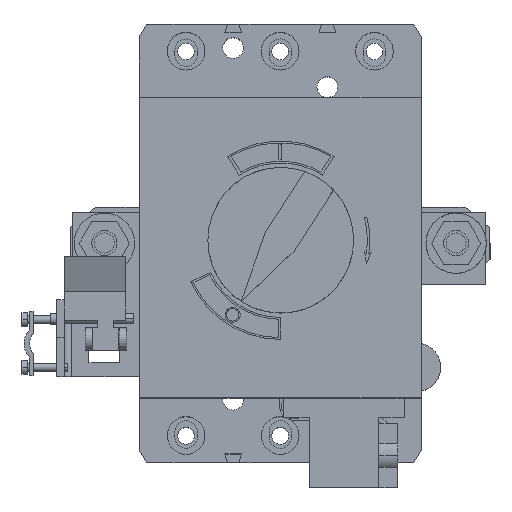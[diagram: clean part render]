
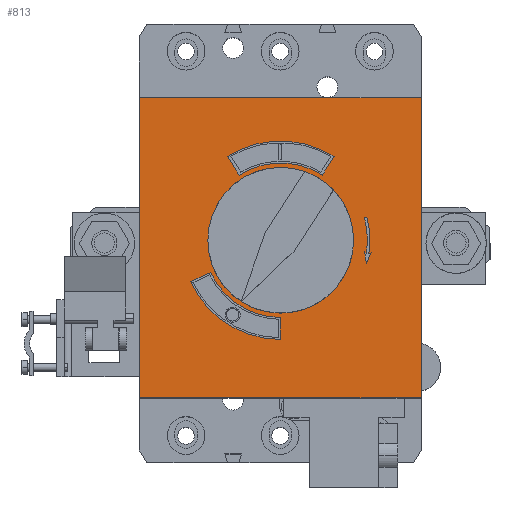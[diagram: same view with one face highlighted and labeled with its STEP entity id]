
A CAD part, top view. The second image highlights one B-rep face of the part: STEP entity #813.
In plain terms, the highlighted planar face has unit normal (0, 0, 1).
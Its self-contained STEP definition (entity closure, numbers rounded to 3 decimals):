
#37 = CARTESIAN_POINT ( 'NONE',  ( 16.717, 26.977, 208.6 ) ) ;
#357 = CARTESIAN_POINT ( 'NONE',  ( 56.115, -61.753, 208.6 ) ) ;
#364 = EDGE_LOOP ( 'NONE', ( #4273, #2432, #441, #1223 ) ) ;
#441 = ORIENTED_EDGE ( 'NONE', *, *, #14408, .F. ) ;
#461 = AXIS2_PLACEMENT_3D ( 'NONE', #5676, #5631, #13730 ) ;
#475 = DIRECTION ( 'NONE',  ( 0., 0., 1. ) ) ;
#523 = VECTOR ( 'NONE', #7405, 1000. ) ;
#596 = LINE ( 'NONE', #7866, #12225 ) ;
#613 = CIRCLE ( 'NONE', #7390, 39.5 ) ;
#648 = LINE ( 'NONE', #14731, #4131 ) ;
#664 = LINE ( 'NONE', #2776, #13053 ) ;
#813 = ADVANCED_FACE ( 'NONE', ( #8595, #4230, #14216, #14394 ), #6535, .F. ) ;
#816 = VERTEX_POINT ( 'NONE', #14621 ) ;
#941 = CARTESIAN_POINT ( 'NONE',  ( 0.195, 1.042, 208.6 ) ) ;
#976 = VERTEX_POINT ( 'NONE', #37 ) ;
#1223 = ORIENTED_EDGE ( 'NONE', *, *, #3751, .F. ) ;
#1296 = CARTESIAN_POINT ( 'NONE',  ( 0.195, 1.042, 208.6 ) ) ;
#1320 = DIRECTION ( 'NONE',  ( 0., -1., 0. ) ) ;
#1738 = VERTEX_POINT ( 'NONE', #2502 ) ;
#1744 = CIRCLE ( 'NONE', #9808, 29. ) ;
#1777 = CARTESIAN_POINT ( 'NONE',  ( -27.739, -11.812, 208.6 ) ) ;
#1913 = VECTOR ( 'NONE', #1320, 1000. ) ;
#1964 = AXIS2_PLACEMENT_3D ( 'NONE', #941, #8921, #6851 ) ;
#2423 = LINE ( 'NONE', #12841, #10778 ) ;
#2432 = ORIENTED_EDGE ( 'NONE', *, *, #6564, .F. ) ;
#2474 = ORIENTED_EDGE ( 'NONE', *, *, #10671, .T. ) ;
#2502 = CARTESIAN_POINT ( 'NONE',  ( -56.115, -61.753, 208.6 ) ) ;
#2542 = EDGE_CURVE ( 'NONE', #7945, #4512, #6720, .T. ) ;
#2638 = EDGE_LOOP ( 'NONE', ( #11622, #2474, #7242, #8294 ) ) ;
#2776 = CARTESIAN_POINT ( 'NONE',  ( 0., -29.707, 208.6 ) ) ;
#2919 = CARTESIAN_POINT ( 'NONE',  ( 0., -38.457, 208.6 ) ) ;
#3313 = DIRECTION ( 'NONE',  ( 1., 0., 0. ) ) ;
#3363 = CARTESIAN_POINT ( 'NONE',  ( 0., -29.707, 208.6 ) ) ;
#3446 = CARTESIAN_POINT ( 'NONE',  ( 21.418, 34.356, 208.6 ) ) ;
#3517 = EDGE_CURVE ( 'NONE', #5341, #12963, #14667, .T. ) ;
#3548 = CARTESIAN_POINT ( 'NONE',  ( 56.115, 57.742, 208.6 ) ) ;
#3578 = ORIENTED_EDGE ( 'NONE', *, *, #10944, .F. ) ;
#3751 = EDGE_CURVE ( 'NONE', #12963, #816, #4907, .T. ) ;
#3764 = CARTESIAN_POINT ( 'NONE',  ( -56.115, 57.742, 208.6 ) ) ;
#3782 = CARTESIAN_POINT ( 'NONE',  ( 0.195, 1.042, 208.6 ) ) ;
#3874 = CARTESIAN_POINT ( 'NONE',  ( 56.115, 57.742, 208.6 ) ) ;
#4095 = LINE ( 'NONE', #3764, #1913 ) ;
#4131 = VECTOR ( 'NONE', #13571, 1000. ) ;
#4230 = FACE_BOUND ( 'NONE', #13514, .T. ) ;
#4273 = ORIENTED_EDGE ( 'NONE', *, *, #3517, .F. ) ;
#4512 = VERTEX_POINT ( 'NONE', #3548 ) ;
#4600 = CARTESIAN_POINT ( 'NONE',  ( -16.327, 26.977, 208.6 ) ) ;
#4614 = CIRCLE ( 'NONE', #1964, 30.75 ) ;
#4791 = DIRECTION ( 'NONE',  ( 0.537, -0.843, 0. ) ) ;
#4907 = LINE ( 'NONE', #13737, #14151 ) ;
#4943 = VECTOR ( 'NONE', #11983, 1000. ) ;
#5330 = CIRCLE ( 'NONE', #13066, 39.5 ) ;
#5341 = VERTEX_POINT ( 'NONE', #3363 ) ;
#5631 = DIRECTION ( 'NONE',  ( 0., 0., -1. ) ) ;
#5676 = CARTESIAN_POINT ( 'NONE',  ( 0.195, 1.042, 208.6 ) ) ;
#5696 = DIRECTION ( 'NONE',  ( 0.537, 0.843, 0. ) ) ;
#5880 = VERTEX_POINT ( 'NONE', #3446 ) ;
#6320 = CARTESIAN_POINT ( 'NONE',  ( 0.195, 1.042, 208.6 ) ) ;
#6345 = CARTESIAN_POINT ( 'NONE',  ( 56.115, 57.742, 208.6 ) ) ;
#6482 = DIRECTION ( 'NONE',  ( 0., 0., -1. ) ) ;
#6535 = PLANE ( 'NONE',  #11933 ) ;
#6564 = EDGE_CURVE ( 'NONE', #13944, #5341, #664, .T. ) ;
#6720 = LINE ( 'NONE', #6345, #523 ) ;
#6823 = EDGE_CURVE ( 'NONE', #1738, #7945, #648, .T. ) ;
#6851 = DIRECTION ( 'NONE',  ( 1., 0., 0. ) ) ;
#6878 = EDGE_CURVE ( 'NONE', #12754, #9786, #1744, .T. ) ;
#6997 = DIRECTION ( 'NONE',  ( 0., 0., 1. ) ) ;
#7219 = DIRECTION ( 'NONE',  ( 1., 0., 0. ) ) ;
#7242 = ORIENTED_EDGE ( 'NONE', *, *, #12285, .T. ) ;
#7275 = VERTEX_POINT ( 'NONE', #4600 ) ;
#7390 = AXIS2_PLACEMENT_3D ( 'NONE', #1296, #6997, #9438 ) ;
#7405 = DIRECTION ( 'NONE',  ( 0., 1., 0. ) ) ;
#7828 = EDGE_CURVE ( 'NONE', #5880, #9898, #613, .T. ) ;
#7866 = CARTESIAN_POINT ( 'NONE',  ( 21.418, 34.356, 208.6 ) ) ;
#7945 = VERTEX_POINT ( 'NONE', #357 ) ;
#7950 = ORIENTED_EDGE ( 'NONE', *, *, #9924, .F. ) ;
#8187 = CIRCLE ( 'NONE', #9714, 29. ) ;
#8238 = EDGE_CURVE ( 'NONE', #976, #5880, #596, .T. ) ;
#8294 = ORIENTED_EDGE ( 'NONE', *, *, #6823, .T. ) ;
#8503 = ORIENTED_EDGE ( 'NONE', *, *, #6878, .F. ) ;
#8595 = FACE_BOUND ( 'NONE', #364, .T. ) ;
#8797 = ORIENTED_EDGE ( 'NONE', *, *, #8238, .F. ) ;
#8921 = DIRECTION ( 'NONE',  ( 0., 0., -1. ) ) ;
#9211 = CARTESIAN_POINT ( 'NONE',  ( 0.195, 1.042, 208.6 ) ) ;
#9258 = DIRECTION ( 'NONE',  ( 0., 0., 1. ) ) ;
#9438 = DIRECTION ( 'NONE',  ( 1., 0., 0. ) ) ;
#9512 = CARTESIAN_POINT ( 'NONE',  ( -56.115, 57.742, 208.6 ) ) ;
#9714 = AXIS2_PLACEMENT_3D ( 'NONE', #9211, #9258, #3313 ) ;
#9786 = VERTEX_POINT ( 'NONE', #12321 ) ;
#9808 = AXIS2_PLACEMENT_3D ( 'NONE', #6320, #475, #7219 ) ;
#9898 = VERTEX_POINT ( 'NONE', #14849 ) ;
#9924 = EDGE_CURVE ( 'NONE', #7275, #976, #4614, .T. ) ;
#10671 = EDGE_CURVE ( 'NONE', #4512, #13366, #10914, .T. ) ;
#10778 = VECTOR ( 'NONE', #4791, 1000. ) ;
#10914 = LINE ( 'NONE', #3874, #4943 ) ;
#10944 = EDGE_CURVE ( 'NONE', #9786, #12754, #8187, .T. ) ;
#11622 = ORIENTED_EDGE ( 'NONE', *, *, #2542, .T. ) ;
#11700 = ORIENTED_EDGE ( 'NONE', *, *, #7828, .F. ) ;
#11933 = AXIS2_PLACEMENT_3D ( 'NONE', #13467, #6482, #12352 ) ;
#11983 = DIRECTION ( 'NONE',  ( -1., 0., 0. ) ) ;
#12055 = DIRECTION ( 'NONE',  ( 0., 1., 0. ) ) ;
#12225 = VECTOR ( 'NONE', #5696, 1000. ) ;
#12285 = EDGE_CURVE ( 'NONE', #13366, #1738, #4095, .T. ) ;
#12321 = CARTESIAN_POINT ( 'NONE',  ( -28.805, 1.042, 208.6 ) ) ;
#12352 = DIRECTION ( 'NONE',  ( -1., 0., 0. ) ) ;
#12509 = EDGE_LOOP ( 'NONE', ( #11700, #8797, #7950, #13199 ) ) ;
#12630 = DIRECTION ( 'NONE',  ( -0.908, -0.418, 0. ) ) ;
#12754 = VERTEX_POINT ( 'NONE', #14456 ) ;
#12841 = CARTESIAN_POINT ( 'NONE',  ( -21.028, 34.356, 208.6 ) ) ;
#12963 = VERTEX_POINT ( 'NONE', #1777 ) ;
#13053 = VECTOR ( 'NONE', #12055, 1000. ) ;
#13066 = AXIS2_PLACEMENT_3D ( 'NONE', #3782, #13119, #14280 ) ;
#13119 = DIRECTION ( 'NONE',  ( 0., 0., 1. ) ) ;
#13199 = ORIENTED_EDGE ( 'NONE', *, *, #13724, .F. ) ;
#13366 = VERTEX_POINT ( 'NONE', #9512 ) ;
#13467 = CARTESIAN_POINT ( 'NONE',  ( 0., 0., 208.6 ) ) ;
#13514 = EDGE_LOOP ( 'NONE', ( #3578, #8503 ) ) ;
#13571 = DIRECTION ( 'NONE',  ( 1., 0., 0. ) ) ;
#13724 = EDGE_CURVE ( 'NONE', #9898, #7275, #2423, .T. ) ;
#13730 = DIRECTION ( 'NONE',  ( 1., 0., 0. ) ) ;
#13737 = CARTESIAN_POINT ( 'NONE',  ( -35.688, -15.47, 208.6 ) ) ;
#13944 = VERTEX_POINT ( 'NONE', #2919 ) ;
#14151 = VECTOR ( 'NONE', #12630, 1000. ) ;
#14216 = FACE_OUTER_BOUND ( 'NONE', #2638, .T. ) ;
#14280 = DIRECTION ( 'NONE',  ( 1., 0., 0. ) ) ;
#14394 = FACE_BOUND ( 'NONE', #12509, .T. ) ;
#14408 = EDGE_CURVE ( 'NONE', #816, #13944, #5330, .T. ) ;
#14456 = CARTESIAN_POINT ( 'NONE',  ( 29.195, 1.042, 208.6 ) ) ;
#14621 = CARTESIAN_POINT ( 'NONE',  ( -35.688, -15.47, 208.6 ) ) ;
#14667 = CIRCLE ( 'NONE', #461, 30.75 ) ;
#14731 = CARTESIAN_POINT ( 'NONE',  ( 56.115, -61.753, 208.6 ) ) ;
#14849 = CARTESIAN_POINT ( 'NONE',  ( -21.028, 34.356, 208.6 ) ) ;
